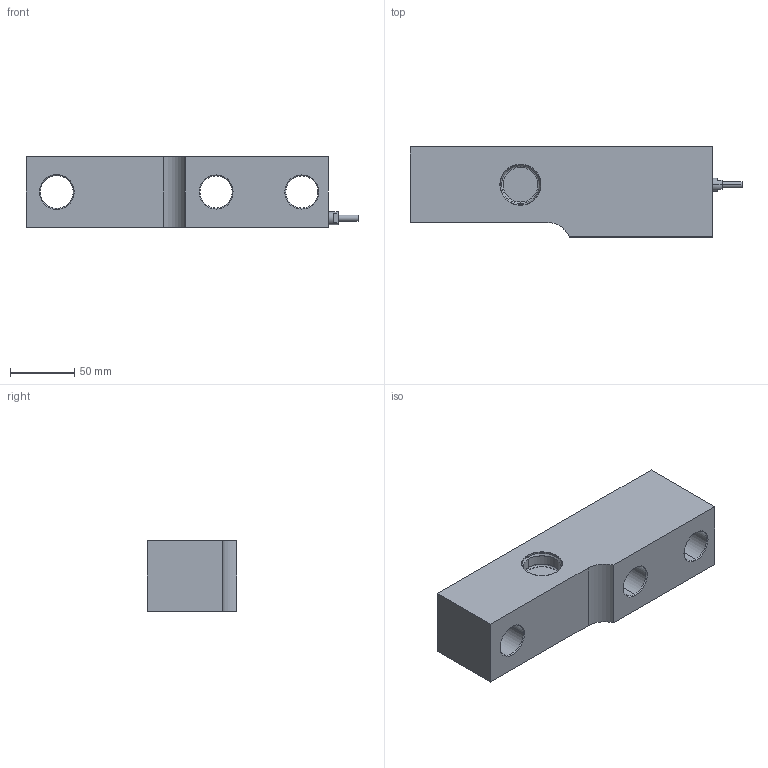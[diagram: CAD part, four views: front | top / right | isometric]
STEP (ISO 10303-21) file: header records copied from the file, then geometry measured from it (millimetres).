
FILE_DESCRIPTION (( 'STEP AP214' ), '1' );
FILE_NAME ('BM8G 10t.STEP', '2023-12-14T11:26:01', ( '' ), ( '' ), 'SwSTEP 2.0', 'SolidWorks 2023', '' );
FILE_SCHEMA (( 'AUTOMOTIVE_DESIGN' ));
Length unit declared in the file: millimetre
Products named in the file (6): Cable part; J-Box cover; BM8G conduit adaptor; Gage cup; BM8G 10t; BM8G 10t element
Assembly tree (6 placements, depth 2):
  BM8G 10t
    BM8G 10t element
    J-Box cover
    Gage cup  x2
    Cable part
    BM8G conduit adaptor
Bounding box: 258 x 69.9 x 55 mm (x, y, z)
Volume: 672209.9 mm3; surface area: 91953.7 mm2
Topology: 6 solids, 6 shells, 117 faces, 248 edges, 149 vertices
Faces by surface type: cylinder 43, cone 31, plane 31, torus 12
Entity records: 2922 total; most frequent: DIRECTION 543, CARTESIAN_POINT 460, ORIENTED_EDGE 424, AXIS2_PLACEMENT_3D 228, EDGE_CURVE 212, VERTEX_POINT 129, CIRCLE 121, EDGE_LOOP 113
